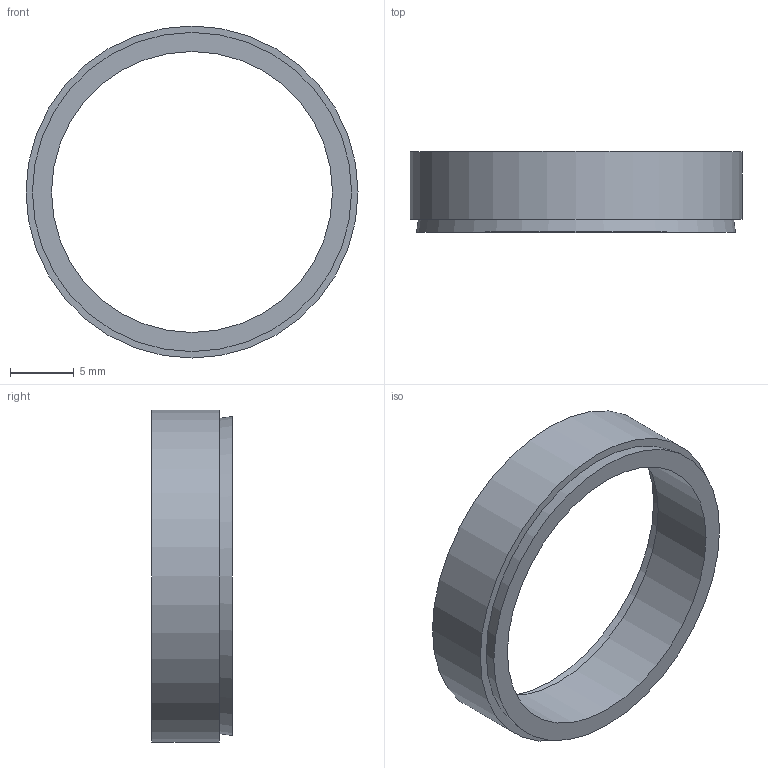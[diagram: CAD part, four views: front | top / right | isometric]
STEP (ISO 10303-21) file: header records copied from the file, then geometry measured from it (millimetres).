
FILE_DESCRIPTION( ( 'Unknown' ), '1' );
FILE_NAME( 'C:/Dokumente und Einstellungen/Sven/Desktop/homepage/cad - homepage/KBS50/KBS 50 - 22 x 26.stp', 'Unknown', ( 'Unknown' ), ( 'Unknown' ), 'XStep 1.0', 'Unknown', ' ' );
FILE_SCHEMA( ( 'automotive_design' ) );
Length unit declared in the file: millimetre
Products named in the file (1): 1
Bounding box: 26 x 6.3 x 26 mm (x, y, z)
Volume: 862.7 mm3; surface area: 1277.4 mm2
Topology: 1 solids, 1 shells, 8 faces, 12 edges, 8 vertices
Faces by surface type: plane 4, cylinder 2, cone 2
Full cylindrical faces by diameter (mm): 22 x1, 26 x1
Entity records: 248 total; most frequent: DIRECTION 34, CARTESIAN_POINT 25, AXIS2_PLACEMENT_3D 17, EDGE_LOOP 16, ORIENTED_EDGE 16, FACE_OUTER_BOUND 10, STYLED_ITEM 8, PRESENTATION_STYLE_ASSIGNMENT 8
